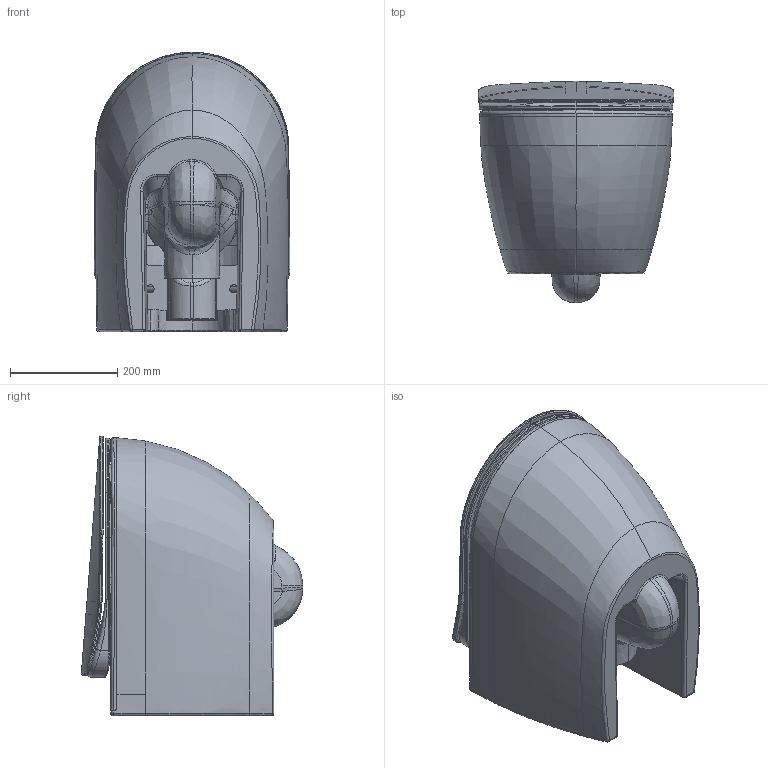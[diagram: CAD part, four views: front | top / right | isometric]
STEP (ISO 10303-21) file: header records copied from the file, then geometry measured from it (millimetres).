
FILE_DESCRIPTION (( 'STEP AP203' ), '1' );
FILE_NAME ('FE322.STEP', '2018-07-30T11:00:40', ( '' ), ( '' ), 'SwSTEP 2.0', 'SolidWorks 2018', '' );
FILE_SCHEMA (( 'CONFIG_CONTROL_DESIGN' ));
Products named in the file (1): FE322
Bounding box: 365.26 x 412.56 x 520.81 mm (x, y, z)
Volume: 24159789.6 mm3; surface area: 1933030.7 mm2
Topology: 4 solids, 4 shells, 1060 faces, 2712 edges, 1649 vertices
Faces by surface type: bspline 672, cylinder 199, plane 125, torus 36, cone 15, sphere 13
Entity records: 219586 total; most frequent: CARTESIAN_POINT 199648, ORIENTED_EDGE 5366, EDGE_CURVE 2683, DIRECTION 2361, VERTEX_POINT 1649, B_SPLINE_CURVE_WITH_KNOTS 1582, EDGE_LOOP 1096, ADVANCED_FACE 1060
